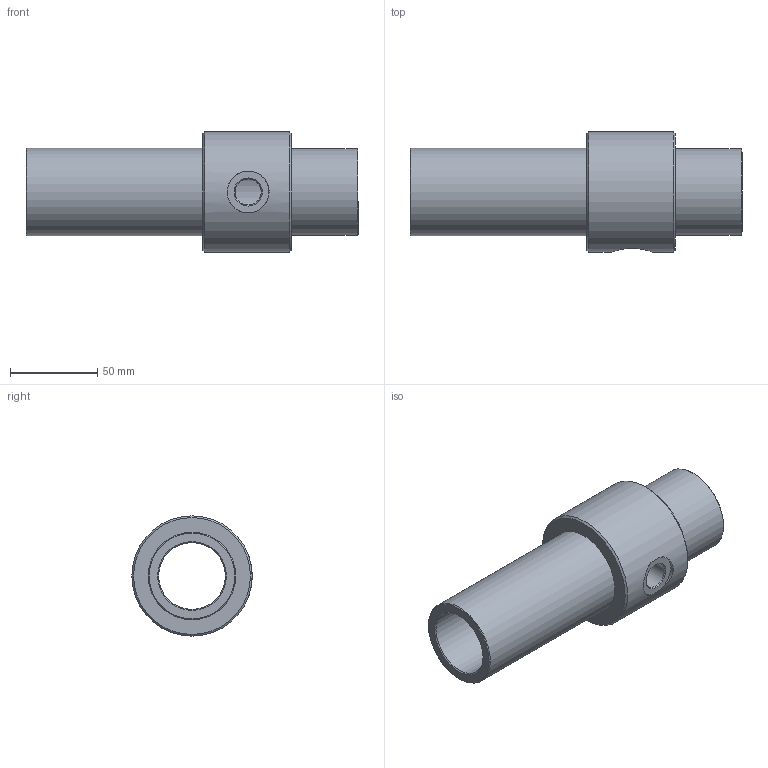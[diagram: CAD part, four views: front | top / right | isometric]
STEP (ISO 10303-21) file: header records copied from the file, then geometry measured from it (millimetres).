
FILE_DESCRIPTION( ( 'Unknown' ), '1' );
FILE_NAME( 'D:/紫賊(霞奢)/3D(Dimension)/Conveying Pump/VTRF/VTRF 15 - 3.stp', 'Unknown', ( 'Unknown' ), ( 'Unknown' ), 'PSStep 10.0', 'Unknown', ' ' );
FILE_SCHEMA( ( 'automotive_design' ) );
Length unit declared in the file: millimetre
Products named in the file (1): 1
Bounding box: 190.4 x 69 x 69 mm (x, y, z)
Volume: 242856.6 mm3; surface area: 60918.4 mm2
Topology: 1 solids, 1 shells, 19 faces, 36 edges, 22 vertices
Faces by surface type: cylinder 7, cone 7, plane 5
Full cylindrical faces by diameter (mm): 14.95 x1, 38.2 x1, 49.6 x1, 50.2 x1, 69 x1
Entity records: 765 total; most frequent: CARTESIAN_POINT 248, DIRECTION 78, ORIENTED_EDGE 46, AXIS2_PLACEMENT_3D 38, EDGE_LOOP 38, FACE_OUTER_BOUND 24, EDGE_CURVE 23, VERTEX_POINT 21
